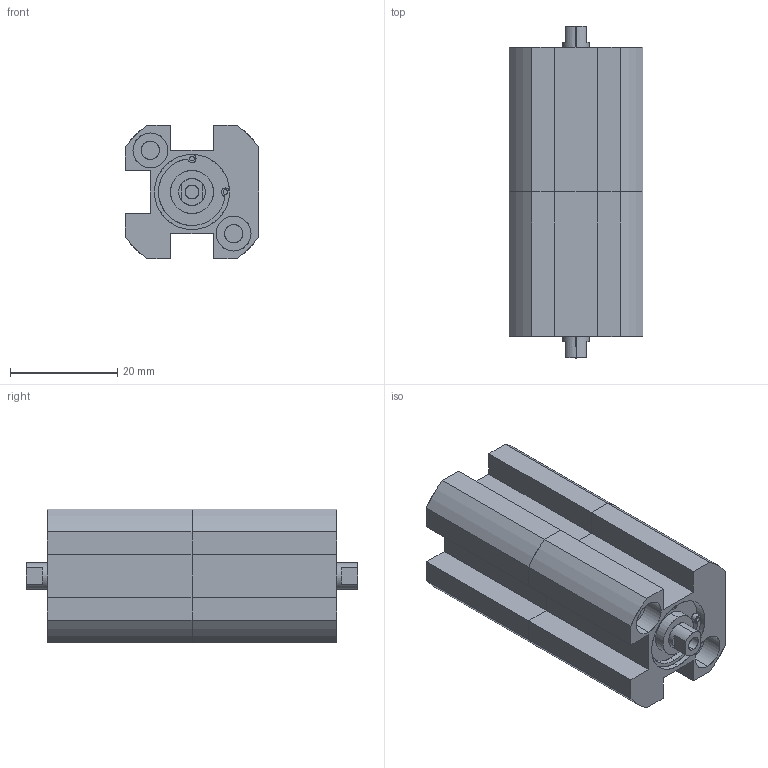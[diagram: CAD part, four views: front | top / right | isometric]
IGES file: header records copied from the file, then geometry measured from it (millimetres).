
Start section: SolidWorks IGES file using analytic representation for surfaces
Global section: file name: C:\Users\Toshiba\Desktop\XCD7-10-10-10.IGS; native system: SolidWorks 2014; preprocessor: SolidWorks 2014; author: Toshiba; date: 160805.093728; units: millimetre
Bounding box: 25 x 62 x 25 mm (x, y, z)
Surface area: 10877.1 mm2 (no closed solid volume)
Topology: 0 solids, 0 shells, 152 faces, 2422 edges, 2414 vertices
Faces by surface type: revolution 86, bspline 66
